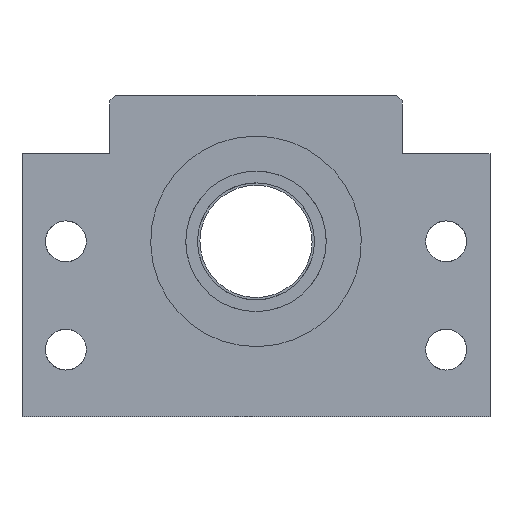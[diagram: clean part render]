
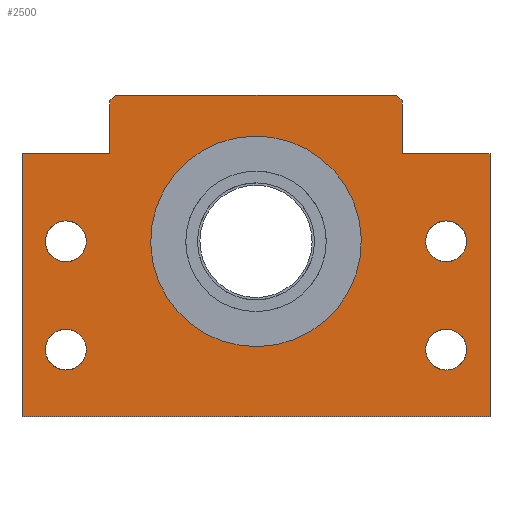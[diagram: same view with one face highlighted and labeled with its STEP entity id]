
A CAD part, left-side view. The second image highlights one B-rep face of the part: STEP entity #2500.
In plain terms, the highlighted planar face has unit normal (-1, 0, 0).
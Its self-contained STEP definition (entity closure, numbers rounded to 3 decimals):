
#70=CARTESIAN_POINT('Vertex',(-61.,58.857,-33.644)) ;
#75=CARTESIAN_POINT('Axis2P3D Location',(-61.,65.,-37.)) ;
#79=CARTESIAN_POINT('Vertex',(-61.,71.143,-40.356)) ;
#133=CARTESIAN_POINT('Axis2P3D Location',(-61.,65.,-37.)) ;
#284=CARTESIAN_POINT('Line Origine',(-61.,0.,-60.)) ;
#288=CARTESIAN_POINT('Vertex',(-61.,-80.,-60.)) ;
#290=CARTESIAN_POINT('Vertex',(-61.,80.,-60.)) ;
#396=CARTESIAN_POINT('Line Origine',(-61.,-80.,-15.)) ;
#400=CARTESIAN_POINT('Vertex',(-61.,-80.,30.)) ;
#493=CARTESIAN_POINT('Line Origine',(-61.,-65.,30.)) ;
#497=CARTESIAN_POINT('Vertex',(-61.,-50.,30.)) ;
#560=CARTESIAN_POINT('Line Origine',(-61.,-50.,39.)) ;
#564=CARTESIAN_POINT('Vertex',(-61.,-50.,48.)) ;
#602=CARTESIAN_POINT('Vertex',(-61.,-48.,50.)) ;
#605=CARTESIAN_POINT('Line Origine',(-61.,-49.,49.)) ;
#633=CARTESIAN_POINT('Vertex',(-61.,48.,50.)) ;
#636=CARTESIAN_POINT('Line Origine',(-61.,0.,50.)) ;
#664=CARTESIAN_POINT('Vertex',(-61.,50.,48.)) ;
#667=CARTESIAN_POINT('Line Origine',(-61.,49.,49.)) ;
#695=CARTESIAN_POINT('Vertex',(-61.,50.,30.)) ;
#698=CARTESIAN_POINT('Line Origine',(-61.,50.,39.)) ;
#710=CARTESIAN_POINT('Line Origine',(-61.,65.,30.)) ;
#714=CARTESIAN_POINT('Vertex',(-61.,80.,30.)) ;
#777=CARTESIAN_POINT('Axis2P3D Location',(-61.,0.,0.)) ;
#781=CARTESIAN_POINT('Vertex',(-61.,31.593,17.259)) ;
#783=CARTESIAN_POINT('Vertex',(-61.,-31.593,-17.259)) ;
#812=CARTESIAN_POINT('Axis2P3D Location',(-61.,0.,0.)) ;
#1684=CARTESIAN_POINT('Line Origine',(-61.,80.,-15.)) ;
#2287=CARTESIAN_POINT('Vertex',(-61.,58.857,3.356)) ;
#2290=CARTESIAN_POINT('Axis2P3D Location',(-61.,65.,0.)) ;
#2294=CARTESIAN_POINT('Vertex',(-61.,71.143,-3.356)) ;
#2310=CARTESIAN_POINT('Axis2P3D Location',(-61.,65.,0.)) ;
#2435=CARTESIAN_POINT('Axis2P3D Location',(-61.,0.,0.)) ;
#2464=CARTESIAN_POINT('Axis2P3D Location',(-61.,-65.,0.)) ;
#2468=CARTESIAN_POINT('Vertex',(-61.,-71.143,3.356)) ;
#2470=CARTESIAN_POINT('Vertex',(-61.,-58.857,-3.356)) ;
#2473=CARTESIAN_POINT('Axis2P3D Location',(-61.,-65.,0.)) ;
#2482=CARTESIAN_POINT('Axis2P3D Location',(-61.,-65.,-37.)) ;
#2486=CARTESIAN_POINT('Vertex',(-61.,-71.143,-33.644)) ;
#2488=CARTESIAN_POINT('Vertex',(-61.,-58.857,-40.356)) ;
#2491=CARTESIAN_POINT('Axis2P3D Location',(-61.,-65.,-37.)) ;
#76=DIRECTION('Axis2P3D Direction',(-1.,0.,-0.)) ;
#134=DIRECTION('Axis2P3D Direction',(-1.,0.,-0.)) ;
#285=DIRECTION('Vector Direction',(0.,-1.,0.)) ;
#397=DIRECTION('Vector Direction',(0.,0.,1.)) ;
#494=DIRECTION('Vector Direction',(0.,1.,0.)) ;
#561=DIRECTION('Vector Direction',(0.,0.,1.)) ;
#606=DIRECTION('Vector Direction',(0.,0.707,0.707)) ;
#637=DIRECTION('Vector Direction',(0.,1.,0.)) ;
#668=DIRECTION('Vector Direction',(0.,-0.707,0.707)) ;
#699=DIRECTION('Vector Direction',(0.,0.,-1.)) ;
#711=DIRECTION('Vector Direction',(0.,1.,0.)) ;
#778=DIRECTION('Axis2P3D Direction',(1.,0.,-0.)) ;
#813=DIRECTION('Axis2P3D Direction',(1.,0.,-0.)) ;
#1685=DIRECTION('Vector Direction',(0.,0.,-1.)) ;
#2291=DIRECTION('Axis2P3D Direction',(-1.,0.,0.)) ;
#2311=DIRECTION('Axis2P3D Direction',(-1.,0.,0.)) ;
#2436=DIRECTION('Axis2P3D Direction',(1.,0.,0.)) ;
#2437=DIRECTION('Axis2P3D XDirection',(0.,1.,0.)) ;
#2465=DIRECTION('Axis2P3D Direction',(1.,0.,0.)) ;
#2474=DIRECTION('Axis2P3D Direction',(1.,0.,0.)) ;
#2483=DIRECTION('Axis2P3D Direction',(1.,0.,0.)) ;
#2492=DIRECTION('Axis2P3D Direction',(1.,0.,0.)) ;
#77=AXIS2_PLACEMENT_3D('Circle Axis2P3D',#75,#76,$) ;
#135=AXIS2_PLACEMENT_3D('Circle Axis2P3D',#133,#134,$) ;
#779=AXIS2_PLACEMENT_3D('Circle Axis2P3D',#777,#778,$) ;
#814=AXIS2_PLACEMENT_3D('Circle Axis2P3D',#812,#813,$) ;
#2292=AXIS2_PLACEMENT_3D('Circle Axis2P3D',#2290,#2291,$) ;
#2312=AXIS2_PLACEMENT_3D('Circle Axis2P3D',#2310,#2311,$) ;
#2438=AXIS2_PLACEMENT_3D('Plane Axis2P3D',#2435,#2436,#2437) ;
#2466=AXIS2_PLACEMENT_3D('Circle Axis2P3D',#2464,#2465,$) ;
#2475=AXIS2_PLACEMENT_3D('Circle Axis2P3D',#2473,#2474,$) ;
#2484=AXIS2_PLACEMENT_3D('Circle Axis2P3D',#2482,#2483,$) ;
#2493=AXIS2_PLACEMENT_3D('Circle Axis2P3D',#2491,#2492,$) ;
#2441=ORIENTED_EDGE('',*,*,#609,.F.) ;
#2442=ORIENTED_EDGE('',*,*,#640,.F.) ;
#2443=ORIENTED_EDGE('',*,*,#671,.F.) ;
#2444=ORIENTED_EDGE('',*,*,#702,.F.) ;
#2445=ORIENTED_EDGE('',*,*,#716,.F.) ;
#2446=ORIENTED_EDGE('',*,*,#1688,.F.) ;
#2447=ORIENTED_EDGE('',*,*,#292,.F.) ;
#2448=ORIENTED_EDGE('',*,*,#402,.F.) ;
#2449=ORIENTED_EDGE('',*,*,#499,.F.) ;
#2450=ORIENTED_EDGE('',*,*,#566,.F.) ;
#2453=ORIENTED_EDGE('',*,*,#2314,.T.) ;
#2454=ORIENTED_EDGE('',*,*,#2296,.T.) ;
#2457=ORIENTED_EDGE('',*,*,#81,.T.) ;
#2458=ORIENTED_EDGE('',*,*,#137,.T.) ;
#2461=ORIENTED_EDGE('',*,*,#816,.T.) ;
#2462=ORIENTED_EDGE('',*,*,#785,.T.) ;
#2479=ORIENTED_EDGE('',*,*,#2472,.T.) ;
#2480=ORIENTED_EDGE('',*,*,#2477,.T.) ;
#2497=ORIENTED_EDGE('',*,*,#2490,.T.) ;
#2498=ORIENTED_EDGE('',*,*,#2495,.T.) ;
#2455=FACE_BOUND('',#2452,.T.) ;
#2459=FACE_BOUND('',#2456,.T.) ;
#2463=FACE_BOUND('',#2460,.T.) ;
#2481=FACE_BOUND('',#2478,.T.) ;
#2499=FACE_BOUND('',#2496,.T.) ;
#286=VECTOR('Line Direction',#285,1.) ;
#398=VECTOR('Line Direction',#397,1.) ;
#495=VECTOR('Line Direction',#494,1.) ;
#562=VECTOR('Line Direction',#561,1.) ;
#607=VECTOR('Line Direction',#606,1.) ;
#638=VECTOR('Line Direction',#637,1.) ;
#669=VECTOR('Line Direction',#668,1.) ;
#700=VECTOR('Line Direction',#699,1.) ;
#712=VECTOR('Line Direction',#711,1.) ;
#1686=VECTOR('Line Direction',#1685,1.) ;
#2500=ADVANCED_FACE('BK40(H)',(#2451,#2455,#2459,#2463,#2481,#2499),#2439,.F.) ;
#78=CIRCLE('generated circle',#77,7.) ;
#136=CIRCLE('generated circle',#135,7.) ;
#780=CIRCLE('generated circle',#779,36.) ;
#815=CIRCLE('generated circle',#814,36.) ;
#2293=CIRCLE('generated circle',#2292,7.) ;
#2313=CIRCLE('generated circle',#2312,7.) ;
#2467=CIRCLE('generated circle',#2466,7.) ;
#2476=CIRCLE('generated circle',#2475,7.) ;
#2485=CIRCLE('generated circle',#2484,7.) ;
#2494=CIRCLE('generated circle',#2493,7.) ;
#81=EDGE_CURVE('',#80,#71,#78,.F.) ;
#137=EDGE_CURVE('',#71,#80,#136,.F.) ;
#292=EDGE_CURVE('',#289,#291,#287,.F.) ;
#402=EDGE_CURVE('',#401,#289,#399,.F.) ;
#499=EDGE_CURVE('',#498,#401,#496,.F.) ;
#566=EDGE_CURVE('',#565,#498,#563,.F.) ;
#609=EDGE_CURVE('',#603,#565,#608,.F.) ;
#640=EDGE_CURVE('',#634,#603,#639,.F.) ;
#671=EDGE_CURVE('',#665,#634,#670,.T.) ;
#702=EDGE_CURVE('',#696,#665,#701,.F.) ;
#716=EDGE_CURVE('',#715,#696,#713,.F.) ;
#785=EDGE_CURVE('',#782,#784,#780,.T.) ;
#816=EDGE_CURVE('',#784,#782,#815,.T.) ;
#1688=EDGE_CURVE('',#291,#715,#1687,.F.) ;
#2296=EDGE_CURVE('',#2295,#2288,#2293,.F.) ;
#2314=EDGE_CURVE('',#2288,#2295,#2313,.F.) ;
#2472=EDGE_CURVE('',#2469,#2471,#2467,.T.) ;
#2477=EDGE_CURVE('',#2471,#2469,#2476,.T.) ;
#2490=EDGE_CURVE('',#2487,#2489,#2485,.T.) ;
#2495=EDGE_CURVE('',#2489,#2487,#2494,.T.) ;
#2440=EDGE_LOOP('',(#2441,#2442,#2443,#2444,#2445,#2446,#2447,#2448,#2449,#2450)) ;
#2452=EDGE_LOOP('',(#2453,#2454)) ;
#2456=EDGE_LOOP('',(#2457,#2458)) ;
#2460=EDGE_LOOP('',(#2461,#2462)) ;
#2478=EDGE_LOOP('',(#2479,#2480)) ;
#2496=EDGE_LOOP('',(#2497,#2498)) ;
#2451=FACE_OUTER_BOUND('',#2440,.T.) ;
#287=LINE('Line',#284,#286) ;
#399=LINE('Line',#396,#398) ;
#496=LINE('Line',#493,#495) ;
#563=LINE('Line',#560,#562) ;
#608=LINE('Line',#605,#607) ;
#639=LINE('Line',#636,#638) ;
#670=LINE('Line',#667,#669) ;
#701=LINE('Line',#698,#700) ;
#713=LINE('Line',#710,#712) ;
#1687=LINE('Line',#1684,#1686) ;
#2439=PLANE('Plane',#2438) ;
#71=VERTEX_POINT('',#70) ;
#80=VERTEX_POINT('',#79) ;
#289=VERTEX_POINT('',#288) ;
#291=VERTEX_POINT('',#290) ;
#401=VERTEX_POINT('',#400) ;
#498=VERTEX_POINT('',#497) ;
#565=VERTEX_POINT('',#564) ;
#603=VERTEX_POINT('',#602) ;
#634=VERTEX_POINT('',#633) ;
#665=VERTEX_POINT('',#664) ;
#696=VERTEX_POINT('',#695) ;
#715=VERTEX_POINT('',#714) ;
#782=VERTEX_POINT('',#781) ;
#784=VERTEX_POINT('',#783) ;
#2288=VERTEX_POINT('',#2287) ;
#2295=VERTEX_POINT('',#2294) ;
#2469=VERTEX_POINT('',#2468) ;
#2471=VERTEX_POINT('',#2470) ;
#2487=VERTEX_POINT('',#2486) ;
#2489=VERTEX_POINT('',#2488) ;
